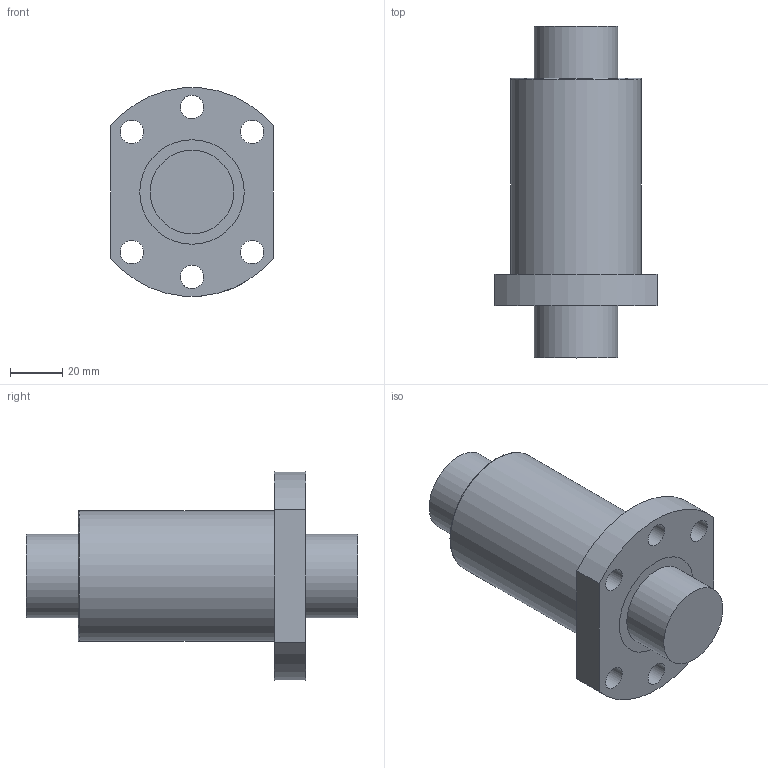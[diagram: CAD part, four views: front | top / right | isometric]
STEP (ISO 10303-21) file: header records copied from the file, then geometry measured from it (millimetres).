
FILE_DESCRIPTION(/* description */ (''),/* implementation_level */ '2;1');
FILE_NAME(/* name */ 'OFU03205-4.stp',/* time_stamp */ '2017-03-13T10:53:13+08:00',/* author */ (''),/* organization */ (''),/* preprocessor_version */ 'ST-DEVELOPER v11',/* originating_system */ 'SIEMENS UGS NX 6.0',/* authorisation */ '');
FILE_SCHEMA (('CONFIG_CONTROL_DESIGN'));
Length unit declared in the file: millimetre
Products named in the file (1): OFU03205-4
Bounding box: 62 x 127 x 79.74 mm (x, y, z)
Volume: 227345.3 mm3; surface area: 50609.6 mm2
Topology: 4 solids, 4 shells, 34 faces, 77 edges, 53 vertices
Faces by surface type: cylinder 19, plane 14, torus 1
Full cylindrical faces by diameter (mm): 4 x1, 5 x1, 9 x6, 32 x4, 40 x4, 50 x1
Entity records: 1038 total; most frequent: CARTESIAN_POINT 246, DIRECTION 154, ORIENTED_EDGE 100, EDGE_LOOP 74, AXIS2_PLACEMENT_3D 72, FACE_BOUND 68, EDGE_CURVE 50, VERTEX_POINT 44
